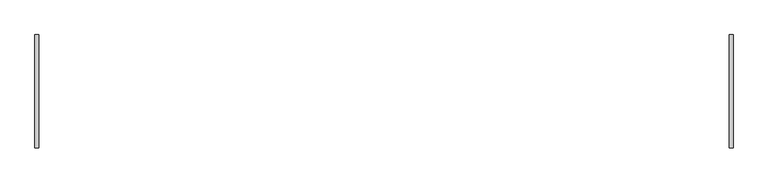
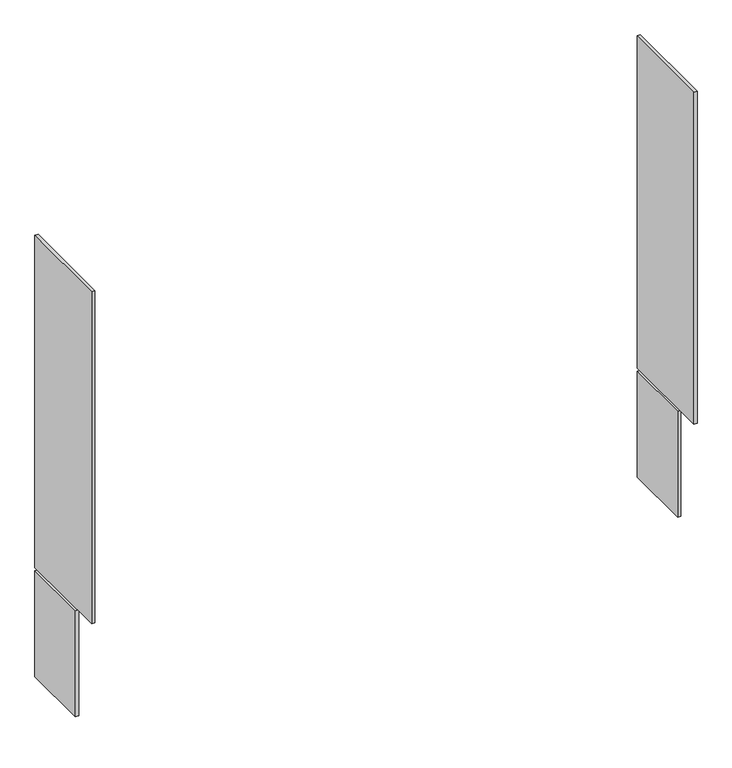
"""IFC4 building model written with IfcOpenShell, lengths in millimetres: furniture geometry, Lockers-Bay-Duracube-Player : LSBSM-P-1900h x 400d x 600w with 470h Shoe Box Bench."""

import ifcopenshell
import ifcopenshell.guid

model = None  # the IFC model being written
_history = None  # IfcOwnerHistory: only IFC2X3 demands one
_inside = {}  # id of a spatial element -> (the spatial element, [elements in it])
_under = {}  # id of a project, library or spatial element -> (it, [spatial elements below it])
_declared = {}  # id of a project -> (the project, [libraries it declares])
_typed = {}  # id of a type object -> (the type object, [elements of that type])
_made_of = {}  # id of a material, layer set ... -> (it, [elements and type objects made of it])


def new_model(schema):
    """Start an empty IFC model of exactly this schema.

    Asked for "IFC4X3", IfcOpenShell would pick the latest addendum, in which some entities
    have other attributes; the version numbers below select the first issue.
    IFC2X3 requires an IfcOwnerHistory on every rooted entity: one is made here for all.
    """
    global model, _history
    if schema == "IFC4X3":
        model = ifcopenshell.file(schema_version=(4, 3, 0, 0))
    else:
        model = ifcopenshell.file(schema=schema)
    _inside.clear()
    _under.clear()
    _declared.clear()
    _typed.clear()
    _made_of.clear()
    _history = None
    if model.schema == "IFC2X3":
        org = make("IfcOrganization", Name="unknown")
        user = make(
            "IfcPersonAndOrganization",
            ThePerson=make("IfcPerson", FamilyName="unknown"),
            TheOrganization=org,
        )
        app = make(
            "IfcApplication",
            ApplicationDeveloper=org,
            Version="unknown",
            ApplicationFullName="unknown",
            ApplicationIdentifier="unknown",
        )
        _history = make(
            "IfcOwnerHistory",
            OwningUser=user,
            OwningApplication=app,
            ChangeAction="ADDED",
            CreationDate=0,
        )
    return model


def make(cls, **values):
    """One entity of the class cls with the attributes given. An attribute that is None is left unset."""
    return model.create_entity(
        cls, **{name: value for name, value in values.items() if value is not None}
    )


def rooted(cls, **values):
    """An entity with a GlobalId (a new one), such as an element, a storey or a relation."""
    return make(cls, GlobalId=ifcopenshell.guid.new(), OwnerHistory=_history, **values)


def si_unit(unit_type, name, prefix=None):
    """IfcSIUnit, for example si_unit("LENGTHUNIT", "METRE", prefix="MILLI")."""
    return make("IfcSIUnit", UnitType=unit_type, Prefix=prefix, Name=name)


def assignment(units):
    """IfcUnitAssignment: the units of a project."""
    return None if units is None else make("IfcUnitAssignment", Units=units)


def point(xyz):
    """IfcCartesianPoint."""
    return None if xyz is None else make("IfcCartesianPoint", Coordinates=xyz)


def direction(xyz):
    """IfcDirection."""
    return None if xyz is None else make("IfcDirection", DirectionRatios=xyz)


def frame(location, z_axis=None, x_axis=None):
    """IfcAxis2Placement3D, a coordinate frame: its origin and axes. An axis left out is left unset."""
    return make(
        "IfcAxis2Placement3D",
        Location=point(location),
        Axis=direction(z_axis),
        RefDirection=direction(x_axis),
    )


def origin():
    """The frame at (0, 0, 0) with its axes left unset."""
    return frame((0.0, 0.0, 0.0))


def origin_with_axes():
    """The frame at (0, 0, 0) with the z axis (0, 0, 1) and the x axis (1, 0, 0) written out."""
    return frame((0.0, 0.0, 0.0), z_axis=(0.0, 0.0, 1.0), x_axis=(1.0, 0.0, 0.0))


def place(relative_to, where):
    """IfcLocalPlacement: puts the frame where relative to a parent placement (None: the world)."""
    return make(
        "IfcLocalPlacement", PlacementRelTo=relative_to, RelativePlacement=where
    )


def context(
    kind, dimensions, precision=None, world=None, true_north=None, identifier=None
):
    """IfcGeometricRepresentationContext, for example the 3D "Model" context."""
    return make(
        "IfcGeometricRepresentationContext",
        ContextIdentifier=identifier,
        ContextType=kind,
        CoordinateSpaceDimension=dimensions,
        Precision=precision,
        WorldCoordinateSystem=world,
        TrueNorth=true_north,
    )


def project(units=None, contexts=None):
    """IfcProject with its units and contexts."""
    return rooted(
        "IfcProject",
        Name="project",
        RepresentationContexts=contexts,
        UnitsInContext=assignment(units),
    )


def spatial(cls, under=None, at=None, **own):
    """A site, building, storey or space (cls), placed at a placement, below another one or the project."""
    s = rooted(cls, ObjectPlacement=at, **own)
    if under is not None:
        _under.setdefault(under.id(), (under, []))[1].append(s)
    return s


def polyline(points):
    """IfcPolyline through the points."""
    return make("IfcPolyline", Points=[point(p) for p in points])


def outline(outer, holes=None, kind="AREA"):
    """IfcArbitraryClosedProfileDef: a profile drawn as a closed curve; with holes, ...WithVoids."""
    if holes is None:
        return make("IfcArbitraryClosedProfileDef", ProfileType=kind, OuterCurve=outer)
    return make(
        "IfcArbitraryProfileDefWithVoids",
        ProfileType=kind,
        OuterCurve=outer,
        InnerCurves=holes,
    )


def extrude(swept, where, along, depth):
    """IfcExtrudedAreaSolid: the profile swept, set in the frame where, extruded along a direction by depth."""
    return make(
        "IfcExtrudedAreaSolid",
        SweptArea=swept,
        Position=where,
        ExtrudedDirection=direction(along),
        Depth=depth,
    )


def shape(context_of_items, identifier, shape_type, items):
    """IfcShapeRepresentation: the items that make up one representation, for example the "Body"."""
    return make(
        "IfcShapeRepresentation",
        ContextOfItems=context_of_items,
        RepresentationIdentifier=identifier,
        RepresentationType=shape_type,
        Items=items,
    )


def source(mapping_origin, context_of_items, identifier, shape_type, items):
    """IfcRepresentationMap: a shape defined once, which mapped items show again and again."""
    return make(
        "IfcRepresentationMap",
        MappingOrigin=mapping_origin,
        MappedRepresentation=shape(context_of_items, identifier, shape_type, items),
    )


def transform(
    local_origin,
    x_axis=None,
    y_axis=None,
    z_axis=None,
    scale=None,
    scale2=None,
    scale3=None,
    uniform=True,
):
    """IfcCartesianTransformationOperator3D, or its non-uniform kind. x_axis, y_axis, z_axis: its Axis1, 2, 3."""
    if uniform:
        return make(
            "IfcCartesianTransformationOperator3D",
            Axis1=direction(x_axis),
            Axis2=direction(y_axis),
            LocalOrigin=point(local_origin),
            Scale=scale,
            Axis3=direction(z_axis),
        )
    return make(
        "IfcCartesianTransformationOperator3DnonUniform",
        Axis1=direction(x_axis),
        Axis2=direction(y_axis),
        LocalOrigin=point(local_origin),
        Scale=scale,
        Axis3=direction(z_axis),
        Scale2=scale2,
        Scale3=scale3,
    )


def mapped(mapping_source, mapping_target):
    """IfcMappedItem: shows the shape of a source again, moved by a transform."""
    return make(
        "IfcMappedItem", MappingSource=mapping_source, MappingTarget=mapping_target
    )


def made_of(thing, what):
    """Note that an element or type object is made of a material, layer set ...; save() writes the relation."""
    if what is not None:
        _made_of.setdefault(what.id(), (what, []))[1].append(thing)
    return thing


def element(
    cls,
    number,
    at=None,
    inside=None,
    cuts=None,
    type_object=None,
    material=None,
    context=None,
    identifier="Body",
    shape_type=None,
    held_by="IfcProductDefinitionShape",
    body=None,
    shapes=None,
    **own,
):
    """One element of the class cls, such as IfcWall. Its Tag is "e" and its number.

    at: its placement. inside: the storey or other place that contains it. cuts: it is an
    opening in that element (IfcRelVoidsElement). A single representation is given by context,
    identifier, shape_type and body (its items); several are given by shapes. held_by: the class
    of the entity that holds the representations. save() writes the other relations.
    """
    e = rooted(cls, Tag="e%d" % number, ObjectPlacement=at, **own)
    if body is not None:
        shapes = [shape(context, identifier, shape_type, body)]
    if shapes is not None:
        e.Representation = make(held_by, Representations=shapes)
    if inside is not None:
        _inside.setdefault(inside.id(), (inside, []))[1].append(e)
    if cuts is not None:
        rooted(
            "IfcRelVoidsElement", RelatingBuildingElement=cuts, RelatedOpeningElement=e
        )
    if type_object is not None:
        _typed.setdefault(type_object.id(), (type_object, []))[1].append(e)
    return made_of(e, material)


def aggregate(whole, parts):
    """IfcRelAggregates: a whole, such as a stair, and the parts it consists of."""
    return rooted("IfcRelAggregates", RelatingObject=whole, RelatedObjects=parts)


def save(model, path):
    """Write the relations noted so far, then the file.

    IfcRelAggregates (storeys below a building ...), IfcRelContainedInSpatialStructure (elements
    in a storey), IfcRelDefinesByType, IfcRelAssociatesMaterial and IfcRelDeclares: one each for
    every whole, place, type object, material and project.
    """
    for whole, parts in _under.values():
        aggregate(whole, parts)
    for where, things in _inside.values():
        rooted(
            "IfcRelContainedInSpatialStructure",
            RelatedElements=things,
            RelatingStructure=where,
        )
    for kind, things in _typed.values():
        rooted("IfcRelDefinesByType", RelatedObjects=things, RelatingType=kind)
    for what, things in _made_of.values():
        rooted("IfcRelAssociatesMaterial", RelatedObjects=things, RelatingMaterial=what)
    for by, libraries in _declared.values():
        rooted("IfcRelDeclares", RelatingContext=by, RelatedDefinitions=libraries)
    model.write(path)


def furniture_1adf02c7(model_context):
    return source(origin(), model_context, "Body", "SweptSolid", [
        extrude(outline(polyline([(2452.0, 200.0), (2465.0, 200.0), (2465.0, -85.0), (2452.0, -85.0), (2452.0, 200.0)])), origin_with_axes(), (0.0, 0.0, 1.0), 457.0),
        extrude(outline(polyline([(13.0, 200.0), (13.0, -85.0), (0.0, -85.0), (0.0, 200.0), (13.0, 200.0)])), origin_with_axes(), (0.0, 0.0, 1.0), 457.0),
        extrude(outline(polyline([(2452.0, 200.0), (2465.0, 200.0), (2465.0, -200.0), (2452.0, -200.0), (2452.0, 200.0)])), frame((0.0, 0.0, 470.0), z_axis=(0.0, 0.0, 1.0), x_axis=(1.0, 0.0, 0.0)), (0.0, 0.0, 1.0), 1430.0),
        extrude(outline(polyline([(0.0, 200.0), (13.0, 200.0), (13.0, -200.0), (0.0, -200.0), (0.0, 200.0)])), frame((0.0, 0.0, 470.0), z_axis=(0.0, 0.0, 1.0), x_axis=(1.0, 0.0, 0.0)), (0.0, 0.0, 1.0), 1430.0),
    ])


if __name__ == "__main__":
    model = new_model("IFC4")
    model_context = context("Model", 3, world=origin())
    ifc_project = project(units=[si_unit("LENGTHUNIT", "METRE", prefix="MILLI")], contexts=[model_context])
    site = spatial("IfcSite", under=ifc_project)
    building = spatial("IfcBuilding", under=site)
    placement = place(None, origin())
    furniture_shape = furniture_1adf02c7(model_context)
    element("IfcFurniture", 1, ObjectType="Lockers-Bay-Duracube-Player : LSBSM-P-1900h x 400d x 600w with 470h Shoe Box Bench", at=placement, inside=building, context=model_context, shape_type="MappedRepresentation", body=[
        mapped(furniture_shape, transform((0.0, 0.0, 0.0), x_axis=(1.0, 0.0, 0.0), y_axis=(0.0, 1.0, 0.0), z_axis=(0.0, 0.0, 1.0))),
    ])
    save(model, "model.ifc")
